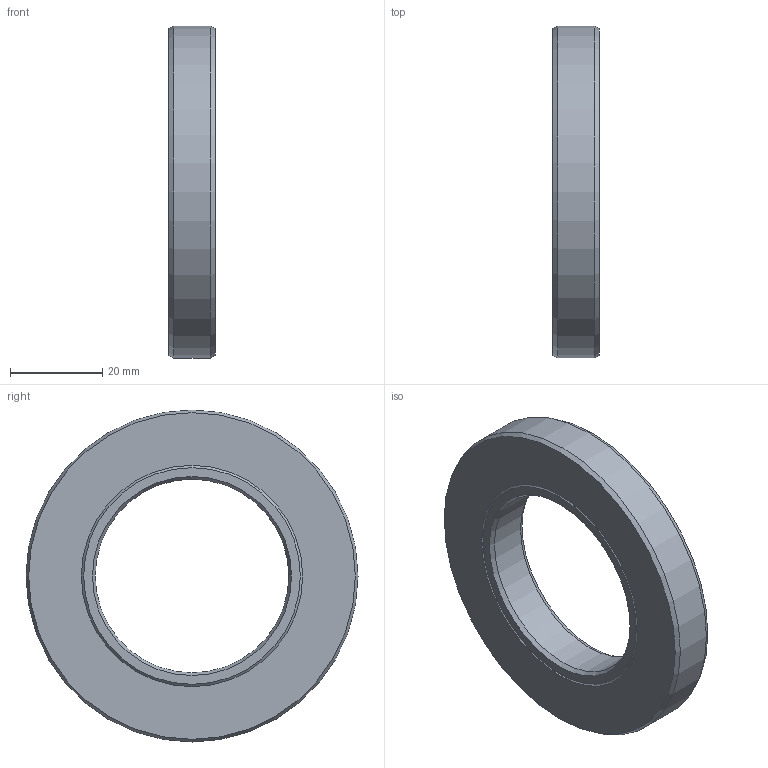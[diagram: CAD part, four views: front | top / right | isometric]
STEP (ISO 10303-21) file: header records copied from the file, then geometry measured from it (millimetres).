
FILE_DESCRIPTION(/* description */ (''),/* implementation_level */ '2;1');
FILE_NAME(/* name */ '301857 SA 42x72x10.stp',/* time_stamp */ '2016-12-16T15:19:15+01:00',/* author */ (''),/* organization */ (''),/* preprocessor_version */ 'ST-DEVELOPER v15',/* originating_system */ 'SIEMENS PLM Software NX 8.5',/* authorisation */ '');
FILE_SCHEMA (('CONFIG_CONTROL_DESIGN'));
Length unit declared in the file: millimetre
Products named in the file (1): ATE0000144_01
Bounding box: 10 x 72 x 72 mm (x, y, z)
Volume: 25684.4 mm3; surface area: 12939.2 mm2
Topology: 2 solids, 2 shells, 18 faces, 37 edges, 23 vertices
Faces by surface type: cone 10, plane 5, cylinder 3
Full cylindrical faces by diameter (mm): 42 x1, 72 x1
Entity records: 492 total; most frequent: DIRECTION 76, CARTESIAN_POINT 74, ORIENTED_EDGE 46, AXIS2_PLACEMENT_3D 38, EDGE_LOOP 33, FACE_BOUND 30, EDGE_CURVE 23, VERTEX_POINT 20
